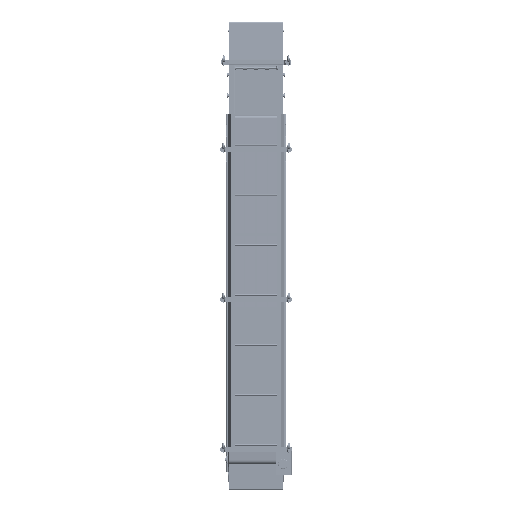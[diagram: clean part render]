
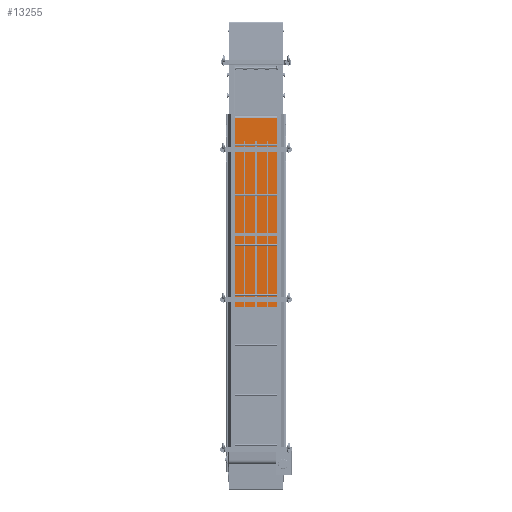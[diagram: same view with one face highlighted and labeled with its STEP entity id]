
A CAD part, front view. The second image highlights one B-rep face of the part: STEP entity #13255.
In plain terms, the highlighted planar face has unit normal (0, -1, 0.004).
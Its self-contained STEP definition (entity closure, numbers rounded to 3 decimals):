
#8756=PLANE('',#78429);
#13255=ADVANCED_FACE('',(#18177),#8756,.F.);
#18177=FACE_OUTER_BOUND('',#22693,.T.);
#22693=EDGE_LOOP('',(#50716,#50717,#50718,#50719));
#27707=LINE('',#122451,#33029);
#27714=LINE('',#122477,#33036);
#27747=LINE('',#122566,#33069);
#27773=LINE('',#122635,#33095);
#33029=VECTOR('',#95037,1.);
#33036=VECTOR('',#95060,1.);
#33069=VECTOR('',#95123,1.);
#33095=VECTOR('',#95187,1.);
#50716=ORIENTED_EDGE('',*,*,#68535,.T.);
#50717=ORIENTED_EDGE('',*,*,#68571,.F.);
#50718=ORIENTED_EDGE('',*,*,#68488,.F.);
#50719=ORIENTED_EDGE('',*,*,#68475,.T.);
#59077=VERTEX_POINT('',#122446);
#59079=VERTEX_POINT('',#122450);
#59091=VERTEX_POINT('',#122478);
#59131=VERTEX_POINT('',#122565);
#68475=EDGE_CURVE('',#59077,#59079,#27707,.T.);
#68488=EDGE_CURVE('',#59077,#59091,#27714,.T.);
#68535=EDGE_CURVE('',#59079,#59131,#27747,.T.);
#68571=EDGE_CURVE('',#59091,#59131,#27773,.T.);
#78429=AXIS2_PLACEMENT_3D('',#122636,#95188,#95189);
#95037=DIRECTION('',(-1.,0.,0.));
#95060=DIRECTION('',(0.,-0.004,-1.));
#95123=DIRECTION('',(0.,-0.004,-1.));
#95187=DIRECTION('',(-1.,0.,0.));
#95188=DIRECTION('',(0.,1.,-0.004));
#95189=DIRECTION('',(0.,-0.004,-1.));
#122446=CARTESIAN_POINT('',(318.,-210.5,-1138.587));
#122450=CARTESIAN_POINT('',(-318.,-210.5,-1138.587));
#122451=CARTESIAN_POINT('',(318.,-210.5,-1138.587));
#122477=CARTESIAN_POINT('',(318.,-220.5,-3408.719));
#122478=CARTESIAN_POINT('',(318.,-220.5,-3408.722));
#122565=CARTESIAN_POINT('',(-318.,-220.5,-3408.722));
#122566=CARTESIAN_POINT('',(-318.,-220.5,-3408.719));
#122635=CARTESIAN_POINT('',(318.,-220.5,-3408.722));
#122636=CARTESIAN_POINT('',(318.,-220.5,-3408.719));
